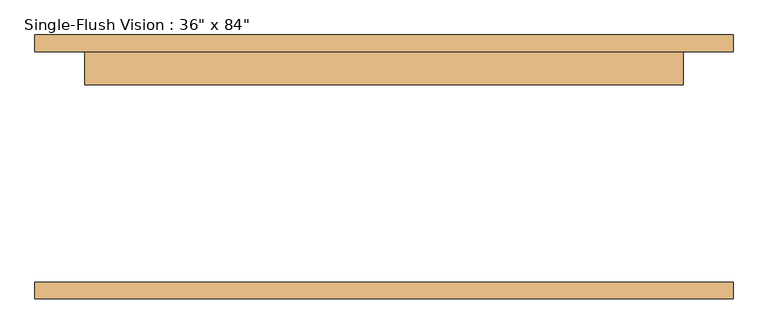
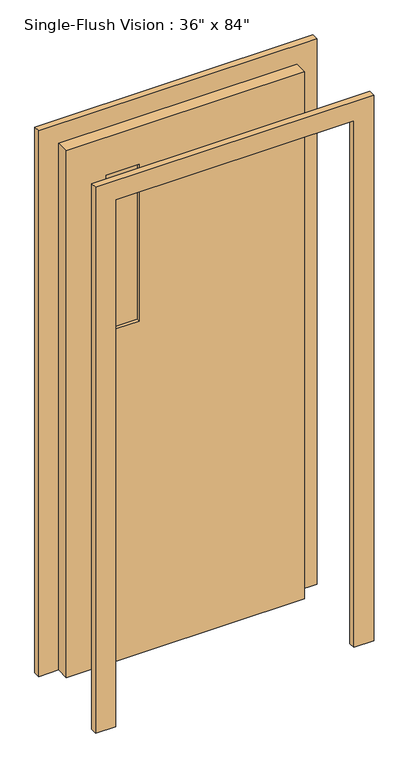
"""IFC4 building model written with IfcOpenShell, lengths in millimetres: door geometry."""

import ifcopenshell
import ifcopenshell.guid

model = None  # the IFC model being written
_history = None  # IfcOwnerHistory: only IFC2X3 demands one
_inside = {}  # id of a spatial element -> (the spatial element, [elements in it])
_under = {}  # id of a project, library or spatial element -> (it, [spatial elements below it])
_declared = {}  # id of a project -> (the project, [libraries it declares])
_typed = {}  # id of a type object -> (the type object, [elements of that type])
_made_of = {}  # id of a material, layer set ... -> (it, [elements and type objects made of it])


def new_model(schema):
    """Start an empty IFC model of exactly this schema.

    Asked for "IFC4X3", IfcOpenShell would pick the latest addendum, in which some entities
    have other attributes; the version numbers below select the first issue.
    IFC2X3 requires an IfcOwnerHistory on every rooted entity: one is made here for all.
    """
    global model, _history
    if schema == "IFC4X3":
        model = ifcopenshell.file(schema_version=(4, 3, 0, 0))
    else:
        model = ifcopenshell.file(schema=schema)
    _inside.clear()
    _under.clear()
    _declared.clear()
    _typed.clear()
    _made_of.clear()
    _history = None
    if model.schema == "IFC2X3":
        org = make("IfcOrganization", Name="unknown")
        user = make(
            "IfcPersonAndOrganization",
            ThePerson=make("IfcPerson", FamilyName="unknown"),
            TheOrganization=org,
        )
        app = make(
            "IfcApplication",
            ApplicationDeveloper=org,
            Version="unknown",
            ApplicationFullName="unknown",
            ApplicationIdentifier="unknown",
        )
        _history = make(
            "IfcOwnerHistory",
            OwningUser=user,
            OwningApplication=app,
            ChangeAction="ADDED",
            CreationDate=0,
        )
    return model


def make(cls, **values):
    """One entity of the class cls with the attributes given. An attribute that is None is left unset."""
    return model.create_entity(
        cls, **{name: value for name, value in values.items() if value is not None}
    )


def rooted(cls, **values):
    """An entity with a GlobalId (a new one), such as an element, a storey or a relation."""
    return make(cls, GlobalId=ifcopenshell.guid.new(), OwnerHistory=_history, **values)


def si_unit(unit_type, name, prefix=None):
    """IfcSIUnit, for example si_unit("LENGTHUNIT", "METRE", prefix="MILLI")."""
    return make("IfcSIUnit", UnitType=unit_type, Prefix=prefix, Name=name)


def assignment(units):
    """IfcUnitAssignment: the units of a project."""
    return None if units is None else make("IfcUnitAssignment", Units=units)


def point(xyz):
    """IfcCartesianPoint."""
    return None if xyz is None else make("IfcCartesianPoint", Coordinates=xyz)


def direction(xyz):
    """IfcDirection."""
    return None if xyz is None else make("IfcDirection", DirectionRatios=xyz)


def frame(location, z_axis=None, x_axis=None):
    """IfcAxis2Placement3D, a coordinate frame: its origin and axes. An axis left out is left unset."""
    return make(
        "IfcAxis2Placement3D",
        Location=point(location),
        Axis=direction(z_axis),
        RefDirection=direction(x_axis),
    )


def origin():
    """The frame at (0, 0, 0) with its axes left unset."""
    return frame((0.0, 0.0, 0.0))


def place(relative_to, where):
    """IfcLocalPlacement: puts the frame where relative to a parent placement (None: the world)."""
    return make(
        "IfcLocalPlacement", PlacementRelTo=relative_to, RelativePlacement=where
    )


def context(
    kind, dimensions, precision=None, world=None, true_north=None, identifier=None
):
    """IfcGeometricRepresentationContext, for example the 3D "Model" context."""
    return make(
        "IfcGeometricRepresentationContext",
        ContextIdentifier=identifier,
        ContextType=kind,
        CoordinateSpaceDimension=dimensions,
        Precision=precision,
        WorldCoordinateSystem=world,
        TrueNorth=true_north,
    )


def project(units=None, contexts=None):
    """IfcProject with its units and contexts."""
    return rooted(
        "IfcProject",
        Name="project",
        RepresentationContexts=contexts,
        UnitsInContext=assignment(units),
    )


def spatial(cls, under=None, at=None, **own):
    """A site, building, storey or space (cls), placed at a placement, below another one or the project."""
    s = rooted(cls, ObjectPlacement=at, **own)
    if under is not None:
        _under.setdefault(under.id(), (under, []))[1].append(s)
    return s


def polyline(points):
    """IfcPolyline through the points."""
    return make("IfcPolyline", Points=[point(p) for p in points])


def outline(outer, holes=None, kind="AREA"):
    """IfcArbitraryClosedProfileDef: a profile drawn as a closed curve; with holes, ...WithVoids."""
    if holes is None:
        return make("IfcArbitraryClosedProfileDef", ProfileType=kind, OuterCurve=outer)
    return make(
        "IfcArbitraryProfileDefWithVoids",
        ProfileType=kind,
        OuterCurve=outer,
        InnerCurves=holes,
    )


def extrude(swept, where, along, depth):
    """IfcExtrudedAreaSolid: the profile swept, set in the frame where, extruded along a direction by depth."""
    return make(
        "IfcExtrudedAreaSolid",
        SweptArea=swept,
        Position=where,
        ExtrudedDirection=direction(along),
        Depth=depth,
    )


def shape(context_of_items, identifier, shape_type, items):
    """IfcShapeRepresentation: the items that make up one representation, for example the "Body"."""
    return make(
        "IfcShapeRepresentation",
        ContextOfItems=context_of_items,
        RepresentationIdentifier=identifier,
        RepresentationType=shape_type,
        Items=items,
    )


def source(mapping_origin, context_of_items, identifier, shape_type, items):
    """IfcRepresentationMap: a shape defined once, which mapped items show again and again."""
    return make(
        "IfcRepresentationMap",
        MappingOrigin=mapping_origin,
        MappedRepresentation=shape(context_of_items, identifier, shape_type, items),
    )


def transform(
    local_origin,
    x_axis=None,
    y_axis=None,
    z_axis=None,
    scale=None,
    scale2=None,
    scale3=None,
    uniform=True,
):
    """IfcCartesianTransformationOperator3D, or its non-uniform kind. x_axis, y_axis, z_axis: its Axis1, 2, 3."""
    if uniform:
        return make(
            "IfcCartesianTransformationOperator3D",
            Axis1=direction(x_axis),
            Axis2=direction(y_axis),
            LocalOrigin=point(local_origin),
            Scale=scale,
            Axis3=direction(z_axis),
        )
    return make(
        "IfcCartesianTransformationOperator3DnonUniform",
        Axis1=direction(x_axis),
        Axis2=direction(y_axis),
        LocalOrigin=point(local_origin),
        Scale=scale,
        Axis3=direction(z_axis),
        Scale2=scale2,
        Scale3=scale3,
    )


def mapped(mapping_source, mapping_target):
    """IfcMappedItem: shows the shape of a source again, moved by a transform."""
    return make(
        "IfcMappedItem", MappingSource=mapping_source, MappingTarget=mapping_target
    )


def made_of(thing, what):
    """Note that an element or type object is made of a material, layer set ...; save() writes the relation."""
    if what is not None:
        _made_of.setdefault(what.id(), (what, []))[1].append(thing)
    return thing


def element(
    cls,
    number,
    at=None,
    inside=None,
    cuts=None,
    type_object=None,
    material=None,
    context=None,
    identifier="Body",
    shape_type=None,
    held_by="IfcProductDefinitionShape",
    body=None,
    shapes=None,
    **own,
):
    """One element of the class cls, such as IfcWall. Its Tag is "e" and its number.

    at: its placement. inside: the storey or other place that contains it. cuts: it is an
    opening in that element (IfcRelVoidsElement). A single representation is given by context,
    identifier, shape_type and body (its items); several are given by shapes. held_by: the class
    of the entity that holds the representations. save() writes the other relations.
    """
    e = rooted(cls, Tag="e%d" % number, ObjectPlacement=at, **own)
    if body is not None:
        shapes = [shape(context, identifier, shape_type, body)]
    if shapes is not None:
        e.Representation = make(held_by, Representations=shapes)
    if inside is not None:
        _inside.setdefault(inside.id(), (inside, []))[1].append(e)
    if cuts is not None:
        rooted(
            "IfcRelVoidsElement", RelatingBuildingElement=cuts, RelatedOpeningElement=e
        )
    if type_object is not None:
        _typed.setdefault(type_object.id(), (type_object, []))[1].append(e)
    return made_of(e, material)


def aggregate(whole, parts):
    """IfcRelAggregates: a whole, such as a stair, and the parts it consists of."""
    return rooted("IfcRelAggregates", RelatingObject=whole, RelatedObjects=parts)


def save(model, path):
    """Write the relations noted so far, then the file.

    IfcRelAggregates (storeys below a building ...), IfcRelContainedInSpatialStructure (elements
    in a storey), IfcRelDefinesByType, IfcRelAssociatesMaterial and IfcRelDeclares: one each for
    every whole, place, type object, material and project.
    """
    for whole, parts in _under.values():
        aggregate(whole, parts)
    for where, things in _inside.values():
        rooted(
            "IfcRelContainedInSpatialStructure",
            RelatedElements=things,
            RelatingStructure=where,
        )
    for kind, things in _typed.values():
        rooted("IfcRelDefinesByType", RelatedObjects=things, RelatingType=kind)
    for what, things in _made_of.values():
        rooted("IfcRelAssociatesMaterial", RelatedObjects=things, RelatingMaterial=what)
    for by, libraries in _declared.values():
        rooted("IfcRelDeclares", RelatingContext=by, RelatedDefinitions=libraries)
    model.write(path)


def door_d6ecde1c(model_context):
    return source(origin(), model_context, "Body", "SweptSolid", [
        extrude(outline(polyline([(2209.8, -533.4), (0.0, -533.4), (0.0, -457.2), (2133.6, -457.2), (2133.6, 457.2), (0.0, 457.2), (0.0, 533.4), (2209.8, 533.4), (2209.8, -533.4)])), frame((0.0, 176.2125, 0.0), z_axis=(0.0, 1.0, 0.0), x_axis=(0.0, 0.0, 1.0)), (0.0, 0.0, 1.0), 25.4),
        extrude(outline(polyline([(2133.6, 457.2), (0.0, 457.2), (0.0, 533.4), (2209.8, 533.4), (2209.8, -533.4), (0.0, -533.4), (0.0, -457.2), (2133.6, -457.2), (2133.6, 457.2)])), frame((0.0, -201.6125, 0.0), z_axis=(0.0, 1.0, 0.0), x_axis=(0.0, 0.0, 1.0)), (0.0, 0.0, 1.0), 25.4),
        extrude(outline(polyline([(-177.8, 138.1125), (-304.8, 138.1125), (-304.8, 144.4625), (-177.8, 144.4625), (-177.8, 138.1125)])), frame((0.0, 0.0, 1346.2), z_axis=(0.0, 0.0, 1.0), x_axis=(1.0, 0.0, 0.0)), (0.0, 0.0, 1.0), 635.0),
        extrude(outline(polyline([(-177.8, 157.1625), (-304.8, 157.1625), (-304.8, 163.5125), (-177.8, 163.5125), (-177.8, 157.1625)])), frame((0.0, 0.0, 1346.2), z_axis=(0.0, 0.0, 1.0), x_axis=(1.0, 0.0, 0.0)), (0.0, 0.0, 1.0), 635.0),
        extrude(outline(polyline([(2133.6, -457.2), (0.0, -457.2), (0.0, 457.2), (2133.6, 457.2), (2133.6, -457.2)]), holes=[polyline([(1981.2, -304.8), (1981.2, -177.8), (1346.2, -177.8), (1346.2, -304.8), (1981.2, -304.8)])]), frame((0.0, 125.4125, 0.0), z_axis=(0.0, 1.0, 0.0), x_axis=(0.0, 0.0, 1.0)), (0.0, 0.0, 1.0), 50.8),
    ])


if __name__ == "__main__":
    model = new_model("IFC4")
    model_context = context("Model", 3, world=origin())
    ifc_project = project(units=[si_unit("LENGTHUNIT", "METRE", prefix="MILLI")], contexts=[model_context])
    site = spatial("IfcSite", under=ifc_project)
    building = spatial("IfcBuilding", under=site)
    placement = place(None, origin())
    door_shape = door_d6ecde1c(model_context)
    element("IfcDoor", 1, ObjectType="Single-Flush Vision : 36\" x 84\"", at=placement, inside=building, context=model_context, shape_type="MappedRepresentation", body=[
        mapped(door_shape, transform((0.0, 0.0, 0.0), x_axis=(1.0, 0.0, 0.0), y_axis=(0.0, 1.0, 0.0), z_axis=(0.0, 0.0, 1.0))),
    ])
    save(model, "model.ifc")
